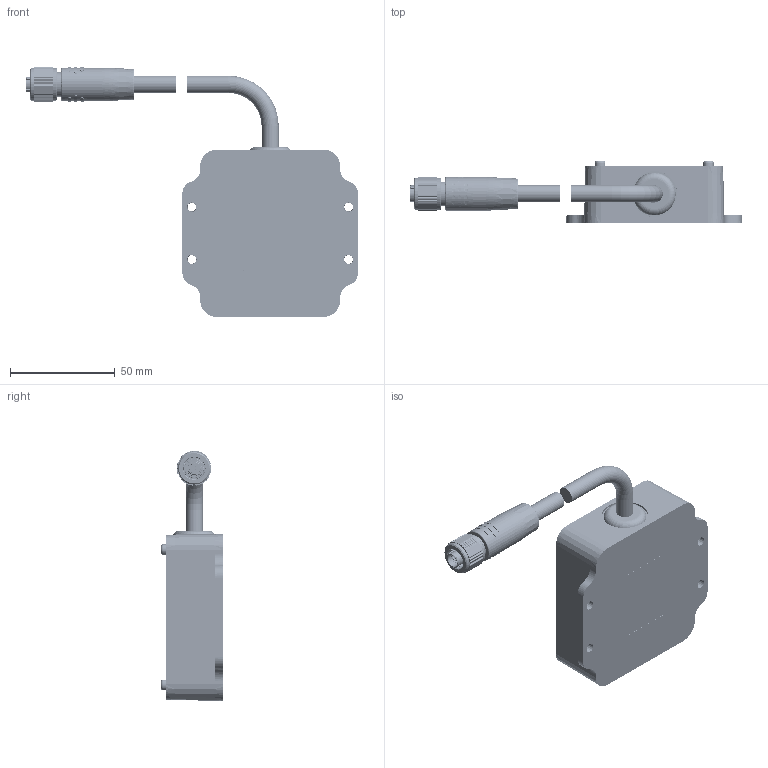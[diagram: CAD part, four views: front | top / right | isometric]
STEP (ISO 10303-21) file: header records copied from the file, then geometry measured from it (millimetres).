
FILE_DESCRIPTION (( 'STEP AP214' ), '1' );
FILE_NAME ('700-105649-02-InterfaceBoxWiredT3ExteriorSpec_StraightConnector.STEP', '2023-03-09T21:31:32', ( '' ), ( '' ), 'SwSTEP 2.0', 'SolidWorks 2022', '' );
FILE_SCHEMA (( 'AUTOMOTIVE_DESIGN' ));
Length unit declared in the file: millimetre
Products named in the file (11): ibox_grommet; ibox_layout; ibox_lid; 830-104249-3_1202; ibox_label; ibox_cable_ties; ibox_cable_pigtail; 96817A904_THREAD-FORMING SCREW FOR THIN PLASTIC_96817A904; ibox_base_Production; 700-105649-02-InterfaceBoxWiredT3ExteriorSpec_StraightConnector; ibox_pcb_assembly_For Production
Assembly tree (17 placements, depth 3):
  ibox_layout
  700-105649-02-InterfaceBoxWiredT3ExteriorSpec_StraightConnector
    ibox_base_Production
    ibox_label
    ibox_lid
    ibox_pcb_assembly_For Production
      830-104249-3_1202
    96817A904_THREAD-FORMING SCREW FOR THIN PLASTIC_96817A904  x8
    ibox_grommet
    ibox_cable_pigtail
    ibox_cable_ties  x2
Bounding box: 158.8 x 29.8 x 119.52 mm (x, y, z)
Volume: 85895.2 mm3; surface area: 77440.3 mm2
Topology: 169 solids, 170 shells, 8031 faces, 20686 edges, 13177 vertices
Faces by surface type: plane 4939, cylinder 1849, bspline 692, cone 332, torus 153, sphere 66
Entity records: 358090 total; most frequent: CARTESIAN_POINT 105875, ORIENTED_EDGE 38888, DIRECTION 33704, EDGE_CURVE 19444, LINE 13080, VECTOR 13080, VERTEX_POINT 12396, AXIS2_PLACEMENT_3D 10312
